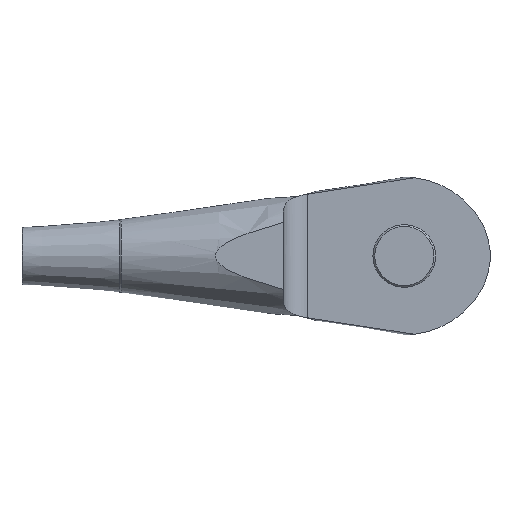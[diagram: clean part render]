
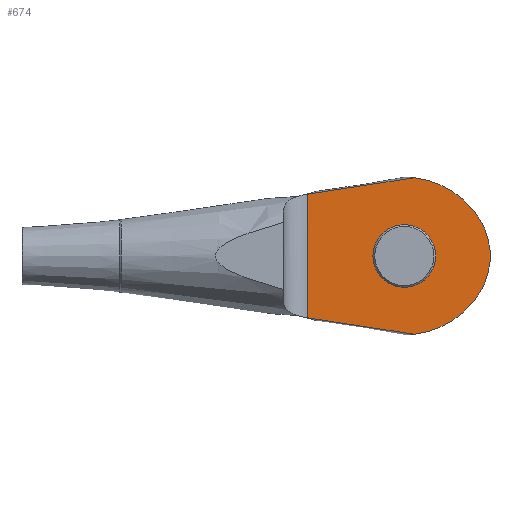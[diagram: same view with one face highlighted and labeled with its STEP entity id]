
A CAD part, front view. The second image highlights one B-rep face of the part: STEP entity #674.
In plain terms, the highlighted planar face has unit normal (0, -1, 0).
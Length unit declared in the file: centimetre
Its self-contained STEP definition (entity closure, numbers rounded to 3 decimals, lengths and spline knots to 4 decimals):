
#20=LINE('',#1184,#40);
#40=VECTOR('',#872,6.9046);
#65=(
BOUNDED_CURVE()
B_SPLINE_CURVE(2,(#1038,#1039,#1040),.UNSPECIFIED.,.F.,.F.)
B_SPLINE_CURVE_WITH_KNOTS((3,3),(0.,6.4806),.UNSPECIFIED.)
CURVE()
GEOMETRIC_REPRESENTATION_ITEM()
RATIONAL_B_SPLINE_CURVE((1.,1.01,1.008))
REPRESENTATION_ITEM('')
);
#69=(
BOUNDED_CURVE()
B_SPLINE_CURVE(2,(#1140,#1141,#1142),.UNSPECIFIED.,.F.,.F.)
B_SPLINE_CURVE_WITH_KNOTS((3,3),(3.8392,10.3198),
 .UNSPECIFIED.)
CURVE()
GEOMETRIC_REPRESENTATION_ITEM()
RATIONAL_B_SPLINE_CURVE((1.008,1.01,1.))
REPRESENTATION_ITEM('')
);
#95=PLANE('',#745);
#120=FACE_BOUND('',#211,.T.);
#154=FACE_OUTER_BOUND('',#210,.T.);
#210=EDGE_LOOP('',(#494,#495,#496,#497,#498,#499));
#211=EDGE_LOOP('',(#500));
#275=CIRCLE('',#734,1.5);
#277=CIRCLE('',#737,4.9586);
#279=CIRCLE('',#740,4.9586);
#281=CIRCLE('',#743,3.9);
#312=VERTEX_POINT('',#1022);
#313=VERTEX_POINT('',#1037);
#324=VERTEX_POINT('',#1126);
#325=VERTEX_POINT('',#1139);
#327=VERTEX_POINT('',#1164);
#329=VERTEX_POINT('',#1169);
#331=VERTEX_POINT('',#1175);
#374=EDGE_CURVE('',#312,#313,#65,.T.);
#386=EDGE_CURVE('',#324,#325,#69,.T.);
#391=EDGE_CURVE('',#327,#327,#275,.T.);
#393=EDGE_CURVE('',#324,#329,#277,.T.);
#396=EDGE_CURVE('',#331,#313,#279,.T.);
#399=EDGE_CURVE('',#329,#331,#281,.T.);
#401=EDGE_CURVE('',#312,#325,#20,.T.);
#494=ORIENTED_EDGE('',*,*,#393,.T.);
#495=ORIENTED_EDGE('',*,*,#399,.T.);
#496=ORIENTED_EDGE('',*,*,#396,.T.);
#497=ORIENTED_EDGE('',*,*,#374,.F.);
#498=ORIENTED_EDGE('',*,*,#401,.T.);
#499=ORIENTED_EDGE('',*,*,#386,.F.);
#500=ORIENTED_EDGE('',*,*,#391,.T.);
#674=ADVANCED_FACE('',(#154,#120),#95,.F.);
#734=AXIS2_PLACEMENT_3D('',#1165,#846,#847);
#737=AXIS2_PLACEMENT_3D('',#1170,#852,#853);
#740=AXIS2_PLACEMENT_3D('',#1176,#859,#860);
#743=AXIS2_PLACEMENT_3D('',#1181,#866,#867);
#745=AXIS2_PLACEMENT_3D('',#1183,#870,#871);
#846=DIRECTION('center_axis',(0.,1.,0.));
#847=DIRECTION('ref_axis',(-1.,0.,0.));
#852=DIRECTION('center_axis',(0.,-1.,0.));
#853=DIRECTION('ref_axis',(0.,0.,
1.));
#859=DIRECTION('center_axis',(0.,-1.,0.));
#860=DIRECTION('ref_axis',(-0.85,0.,-0.526));
#866=DIRECTION('center_axis',(0.,-1.,0.));
#867=DIRECTION('ref_axis',(-0.85,0.,0.526));
#870=DIRECTION('center_axis',(0.,1.,0.));
#871=DIRECTION('ref_axis',(-1.,0.,0.));
#872=DIRECTION('',(0.,0.,-1.));
#1022=CARTESIAN_POINT('',(-5.4,-1.,3.4523));
#1037=CARTESIAN_POINT('',(0.5506,-1.,4.3706));
#1038=CARTESIAN_POINT('Ctrl Pts',(-5.4,-1.,3.4523));
#1039=CARTESIAN_POINT('Ctrl Pts',(-2.774,-1.,3.8609));
#1040=CARTESIAN_POINT('Ctrl Pts',(0.5506,-1.,4.3706));
#1126=CARTESIAN_POINT('',(0.5506,-1.,-4.3706));
#1139=CARTESIAN_POINT('',(-5.4,-1.,-3.4523));
#1140=CARTESIAN_POINT('Ctrl Pts',(0.5506,-1.,-4.3706));
#1141=CARTESIAN_POINT('Ctrl Pts',(-2.774,-1.,-3.8609));
#1142=CARTESIAN_POINT('Ctrl Pts',(-5.4,-1.,-3.4523));
#1164=CARTESIAN_POINT('',(1.5,-1.,0.));
#1165=CARTESIAN_POINT('Origin',(0.,-1.,0.));
#1169=CARTESIAN_POINT('',(4.2158,-1.,-2.0532));
#1170=CARTESIAN_POINT('Origin',(0.,-1.,0.5573));
#1175=CARTESIAN_POINT('',(4.2158,-1.,2.0532));
#1176=CARTESIAN_POINT('Origin',(0.,-1.,-0.5573));
#1181=CARTESIAN_POINT('Origin',(0.9,-1.,0.));
#1183=CARTESIAN_POINT('Origin',(4.8,-1.,0.));
#1184=CARTESIAN_POINT('',(-5.4,-1.,0.));
